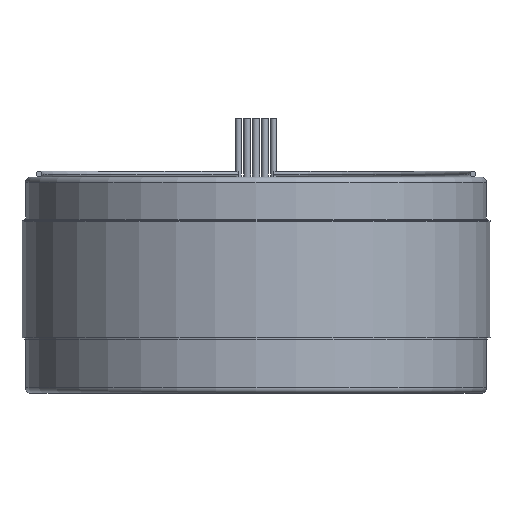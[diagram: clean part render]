
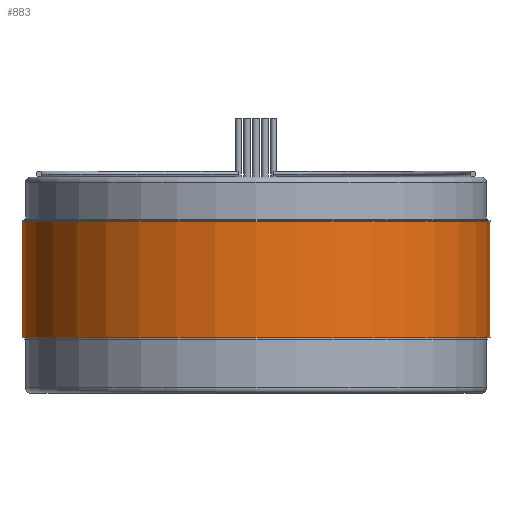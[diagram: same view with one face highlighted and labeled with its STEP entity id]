
A CAD part, front view. The second image highlights one B-rep face of the part: STEP entity #883.
In plain terms, the highlighted cylindrical face has radius 101.6 mm (diameter 203.2 mm), a partial arc.
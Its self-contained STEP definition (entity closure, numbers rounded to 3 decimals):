
#186 = LINE ( 'NONE', #1851, #521 ) ;
#215 = DIRECTION ( 'NONE',  ( 1., 0., 0. ) ) ;
#269 = EDGE_LOOP ( 'NONE', ( #1468, #353, #365, #2753 ) ) ;
#353 = ORIENTED_EDGE ( 'NONE', *, *, #1734, .F. ) ;
#365 = ORIENTED_EDGE ( 'NONE', *, *, #2999, .T. ) ;
#521 = VECTOR ( 'NONE', #2373, 1000. ) ;
#755 = DIRECTION ( 'NONE',  ( 1., 0., 0. ) ) ;
#805 = FACE_OUTER_BOUND ( 'NONE', #269, .T. ) ;
#853 = DIRECTION ( 'NONE',  ( 0., 0., -1. ) ) ;
#883 = ADVANCED_FACE ( 'NONE', ( #805 ), #2651, .T. ) ;
#1248 = EDGE_CURVE ( 'NONE', #2084, #2503, #1385, .T. ) ;
#1268 = CARTESIAN_POINT ( 'NONE',  ( 101.6, 0., 25.044 ) ) ;
#1344 = CARTESIAN_POINT ( 'NONE',  ( 101.6, 0., 25.044 ) ) ;
#1385 = LINE ( 'NONE', #1344, #2694 ) ;
#1395 = CARTESIAN_POINT ( 'NONE',  ( 0., 0., 25.044 ) ) ;
#1468 = ORIENTED_EDGE ( 'NONE', *, *, #1248, .F. ) ;
#1505 = VERTEX_POINT ( 'NONE', #2504 ) ;
#1582 = AXIS2_PLACEMENT_3D ( 'NONE', #1395, #853, #2247 ) ;
#1595 = DIRECTION ( 'NONE',  ( 0., 0., -1. ) ) ;
#1734 = EDGE_CURVE ( 'NONE', #1505, #2084, #2502, .T. ) ;
#1798 = DIRECTION ( 'NONE',  ( 0., 0., 1. ) ) ;
#1851 = CARTESIAN_POINT ( 'NONE',  ( -101.6, 0., 25.044 ) ) ;
#2027 = CARTESIAN_POINT ( 'NONE',  ( -101.6, 0., -25.044 ) ) ;
#2063 = AXIS2_PLACEMENT_3D ( 'NONE', #2076, #2356, #755 ) ;
#2076 = CARTESIAN_POINT ( 'NONE',  ( 0., 0., 25.044 ) ) ;
#2084 = VERTEX_POINT ( 'NONE', #1268 ) ;
#2103 = EDGE_CURVE ( 'NONE', #2697, #2503, #3359, .T. ) ;
#2247 = DIRECTION ( 'NONE',  ( -1., 0., 0. ) ) ;
#2356 = DIRECTION ( 'NONE',  ( 0., 0., 1. ) ) ;
#2373 = DIRECTION ( 'NONE',  ( 0., 0., -1. ) ) ;
#2502 = CIRCLE ( 'NONE', #2063, 101.6 ) ;
#2503 = VERTEX_POINT ( 'NONE', #2942 ) ;
#2504 = CARTESIAN_POINT ( 'NONE',  ( -101.6, 0., 25.044 ) ) ;
#2641 = AXIS2_PLACEMENT_3D ( 'NONE', #3405, #1798, #215 ) ;
#2651 = CYLINDRICAL_SURFACE ( 'NONE', #1582, 101.6 ) ;
#2694 = VECTOR ( 'NONE', #1595, 1000. ) ;
#2697 = VERTEX_POINT ( 'NONE', #2027 ) ;
#2753 = ORIENTED_EDGE ( 'NONE', *, *, #2103, .T. ) ;
#2942 = CARTESIAN_POINT ( 'NONE',  ( 101.6, 0., -25.044 ) ) ;
#2999 = EDGE_CURVE ( 'NONE', #1505, #2697, #186, .T. ) ;
#3359 = CIRCLE ( 'NONE', #2641, 101.6 ) ;
#3405 = CARTESIAN_POINT ( 'NONE',  ( 0., 0., -25.044 ) ) ;
